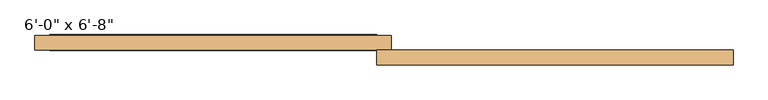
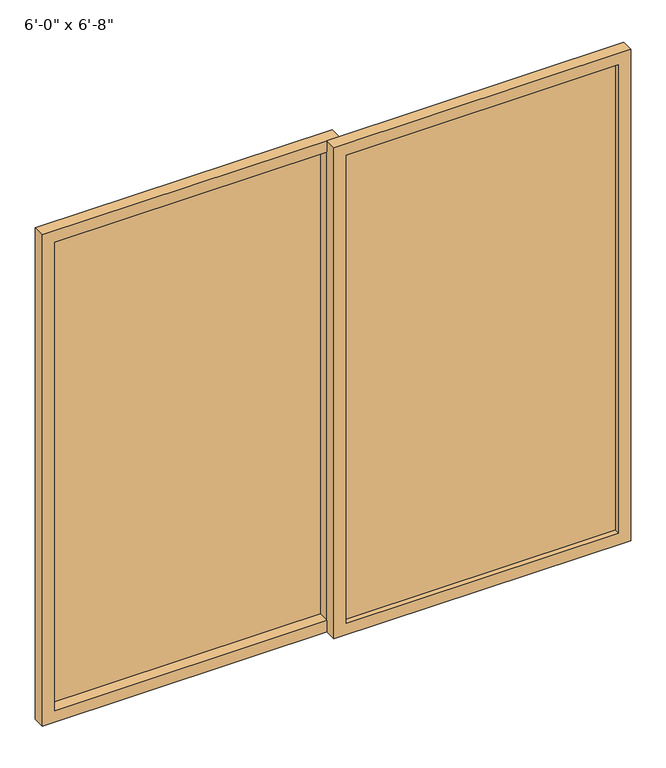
"""IFC4 building model written with IfcOpenShell, lengths in millimetres: door geometry."""

from ifc_helpers import new_model, si_unit, frame, origin, place, context, project, spatial, polyline, outline, extrude, source, transform, mapped, element, save


def door_98a61b3f(model_context):
    return source(origin(), model_context, "Body", "SweptSolid", [
        extrude(outline(polyline([(2133.6, -25.0), (0.0, -25.0), (0.0, 1193.8), (2133.6, 1193.8), (2133.6, -25.0)]), holes=[polyline([(2083.6, 25.0), (2083.6, 1143.8), (50.0, 1143.8), (50.0, 25.0), (2083.6, 25.0)])]), frame((0.0, 103.2, 0.0), z_axis=(0.0, 1.0, 0.0), x_axis=(0.0, 0.0, 1.0)), (0.0, 0.0, 1.0), 50.0),
        extrude(outline(polyline([(2133.6, 25.0), (2133.6, -1193.8), (0.0, -1193.8), (0.0, 25.0), (2133.6, 25.0)]), holes=[polyline([(2083.6, -25.0), (50.0, -25.0), (50.0, -1143.8), (2083.6, -1143.8), (2083.6, -25.0)])]), frame((0.0, 153.2, 0.0), z_axis=(0.0, 1.0, 0.0), x_axis=(0.0, 0.0, 1.0)), (0.0, 0.0, 1.0), 50.0),
        extrude(outline(polyline([(25.0, 131.375), (1143.8, 131.375), (1143.8, 125.025), (25.0, 125.025), (25.0, 131.375)])), frame((0.0, 0.0, 50.0), z_axis=(0.0, 0.0, 1.0), x_axis=(1.0, 0.0, 0.0)), (0.0, 0.0, 1.0), 2033.6),
        extrude(outline(polyline([(-25.0, 200.025), (-1143.8, 200.025), (-1143.8, 206.375), (-25.0, 206.375), (-25.0, 200.025)])), frame((0.0, 0.0, 50.0), z_axis=(0.0, 0.0, 1.0), x_axis=(1.0, 0.0, 0.0)), (0.0, 0.0, 1.0), 2033.6),
    ])


if __name__ == "__main__":
    model = new_model("IFC4")
    model_context = context("Model", 3, world=origin())
    ifc_project = project(units=[si_unit("LENGTHUNIT", "METRE", prefix="MILLI")], contexts=[model_context])
    site = spatial("IfcSite", under=ifc_project)
    building = spatial("IfcBuilding", under=site)
    placement = place(None, origin())
    door_shape = door_98a61b3f(model_context)
    element("IfcDoor", 1, ObjectType="Planitar - Double Sliding Door_Glass : 6'-0\" x 6'-8\"", at=placement, inside=building, context=model_context, shape_type="MappedRepresentation", body=[
        mapped(door_shape, transform((0.0, 0.0, 0.0), x_axis=(1.0, 0.0, 0.0), y_axis=(0.0, 1.0, 0.0), z_axis=(0.0, 0.0, 1.0))),
    ])
    save(model, "model.ifc")
